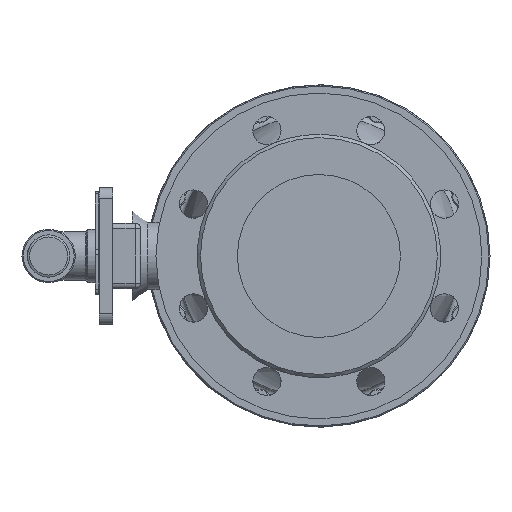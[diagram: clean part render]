
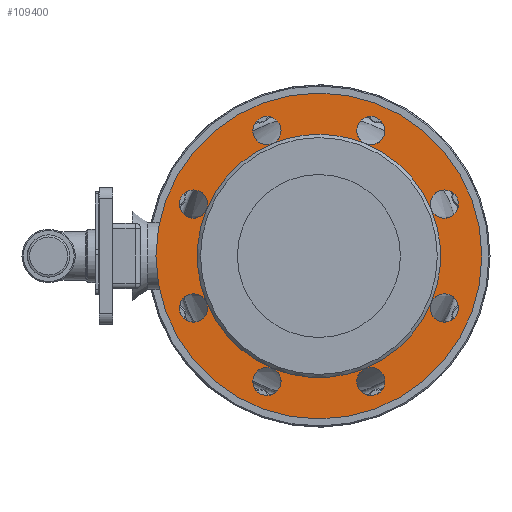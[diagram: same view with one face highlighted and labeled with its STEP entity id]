
A CAD part, left-side view. The second image highlights one B-rep face of the part: STEP entity #109400.
In plain terms, the highlighted planar face has unit normal (-1, 0, 0).
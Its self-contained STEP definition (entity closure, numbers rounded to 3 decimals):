
#109232=CARTESIAN_POINT('',(-159.0,42.861,-103.475));
#109233=VERTEX_POINT('',#109232);
#109234=CARTESIAN_POINT('',(-159.0,-42.861,-103.475));
#109235=VERTEX_POINT('',#109234);
#109236=CARTESIAN_POINT('',(-159.0,0.0,0.0));
#109237=DIRECTION('',(-1.0,0.0,0.0));
#109238=DIRECTION('',(0.0,0.0,1.0));
#109239=AXIS2_PLACEMENT_3D('',#109236,#109237,#109238);
#109240=CIRCLE('',#109239,112.);
#109241=EDGE_CURVE('',#109233,#109235,#109240,.T.);
#109243=CARTESIAN_POINT('',(-159.0,-103.475,-42.861));
#109244=VERTEX_POINT('',#109243);
#109245=CARTESIAN_POINT('',(-159.0,0.0,0.0));
#109246=DIRECTION('',(-1.0,0.0,0.0));
#109247=DIRECTION('',(0.0,0.0,1.0));
#109248=AXIS2_PLACEMENT_3D('',#109245,#109246,#109247);
#109249=CIRCLE('',#109248,112.);
#109250=EDGE_CURVE('',#109235,#109244,#109249,.T.);
#109252=CARTESIAN_POINT('',(-159.0,-103.475,42.861));
#109253=VERTEX_POINT('',#109252);
#109254=CARTESIAN_POINT('',(-159.0,0.0,0.0));
#109255=DIRECTION('',(-1.0,0.0,0.0));
#109256=DIRECTION('',(0.0,0.0,1.0));
#109257=AXIS2_PLACEMENT_3D('',#109254,#109255,#109256);
#109258=CIRCLE('',#109257,112.);
#109259=EDGE_CURVE('',#109244,#109253,#109258,.T.);
#109261=CARTESIAN_POINT('',(-159.0,-42.861,103.475));
#109262=VERTEX_POINT('',#109261);
#109263=CARTESIAN_POINT('',(-159.0,0.0,0.0));
#109264=DIRECTION('',(-1.0,0.0,0.0));
#109265=DIRECTION('',(0.0,0.0,1.0));
#109266=AXIS2_PLACEMENT_3D('',#109263,#109264,#109265);
#109267=CIRCLE('',#109266,112.);
#109268=EDGE_CURVE('',#109253,#109262,#109267,.T.);
#109270=CARTESIAN_POINT('',(-159.0,42.861,103.475));
#109271=VERTEX_POINT('',#109270);
#109272=CARTESIAN_POINT('',(-159.0,0.0,0.0));
#109273=DIRECTION('',(-1.0,0.0,0.0));
#109274=DIRECTION('',(0.0,0.0,1.0));
#109275=AXIS2_PLACEMENT_3D('',#109272,#109273,#109274);
#109276=CIRCLE('',#109275,112.);
#109277=EDGE_CURVE('',#109262,#109271,#109276,.T.);
#109279=CARTESIAN_POINT('',(-159.0,103.475,42.861));
#109280=VERTEX_POINT('',#109279);
#109281=CARTESIAN_POINT('',(-159.0,0.0,0.0));
#109282=DIRECTION('',(-1.0,0.0,0.0));
#109283=DIRECTION('',(0.0,0.0,1.0));
#109284=AXIS2_PLACEMENT_3D('',#109281,#109282,#109283);
#109285=CIRCLE('',#109284,112.);
#109286=EDGE_CURVE('',#109271,#109280,#109285,.T.);
#109288=CARTESIAN_POINT('',(-159.0,103.475,-42.861));
#109289=VERTEX_POINT('',#109288);
#109290=CARTESIAN_POINT('',(-159.0,0.0,0.0));
#109291=DIRECTION('',(-1.0,0.0,0.0));
#109292=DIRECTION('',(0.0,0.0,1.0));
#109293=AXIS2_PLACEMENT_3D('',#109290,#109291,#109292);
#109294=CIRCLE('',#109293,112.);
#109295=EDGE_CURVE('',#109280,#109289,#109294,.T.);
#109297=CARTESIAN_POINT('',(-159.0,0.0,0.0));
#109298=DIRECTION('',(-1.0,0.0,0.0));
#109299=DIRECTION('',(0.0,0.0,1.0));
#109300=AXIS2_PLACEMENT_3D('',#109297,#109298,#109299);
#109301=CIRCLE('',#109300,112.);
#109302=EDGE_CURVE('',#109289,#109233,#109301,.T.);
#109318=CARTESIAN_POINT('',(-159.0,-125.75,0.0));
#109319=DIRECTION('',(-1.0,0.0,0.0));
#109320=DIRECTION('',(0.0,0.0,1.0));
#109321=AXIS2_PLACEMENT_3D('',#109318,#109319,#109320);
#109322=PLANE('',#109321);
#109323=CARTESIAN_POINT('',(-159.0,0.,150.0));
#109324=VERTEX_POINT('',#109323);
#109325=CARTESIAN_POINT('',(-159.0,0.0,0.0));
#109326=DIRECTION('',(1.0,0.0,0.0));
#109327=DIRECTION('',(0.0,0.0,-1.0));
#109328=AXIS2_PLACEMENT_3D('',#109325,#109326,#109327);
#109329=CIRCLE('',#109328,150.0);
#109330=EDGE_CURVE('',#109324,#109324,#109329,.T.);
#109331=ORIENTED_EDGE('',*,*,#109330,.F.);
#109332=EDGE_LOOP('',(#109331));
#109333=FACE_OUTER_BOUND('',#109332,.T.);
#109334=CARTESIAN_POINT('',(-159.0,115.485,-47.835));
#109335=DIRECTION('',(1.0,0.0,0.0));
#109336=DIRECTION('',(0.0,0.0,1.0));
#109337=AXIS2_PLACEMENT_3D('',#109334,#109335,#109336);
#109338=CIRCLE('',#109337,13.0);
#109339=EDGE_CURVE('',#109289,#109289,#109338,.T.);
#109340=ORIENTED_EDGE('',*,*,#109339,.T.);
#109341=ORIENTED_EDGE('',*,*,#109295,.F.);
#109342=CARTESIAN_POINT('',(-159.0,115.485,47.835));
#109343=DIRECTION('',(1.0,0.0,0.0));
#109344=DIRECTION('',(0.0,0.0,1.0));
#109345=AXIS2_PLACEMENT_3D('',#109342,#109343,#109344);
#109346=CIRCLE('',#109345,13.0);
#109347=EDGE_CURVE('',#109280,#109280,#109346,.T.);
#109348=ORIENTED_EDGE('',*,*,#109347,.T.);
#109349=ORIENTED_EDGE('',*,*,#109286,.F.);
#109350=CARTESIAN_POINT('',(-159.0,47.835,115.485));
#109351=DIRECTION('',(1.0,0.0,0.0));
#109352=DIRECTION('',(0.0,0.0,1.0));
#109353=AXIS2_PLACEMENT_3D('',#109350,#109351,#109352);
#109354=CIRCLE('',#109353,13.0);
#109355=EDGE_CURVE('',#109271,#109271,#109354,.T.);
#109356=ORIENTED_EDGE('',*,*,#109355,.T.);
#109357=ORIENTED_EDGE('',*,*,#109277,.F.);
#109358=CARTESIAN_POINT('',(-159.0,-47.835,115.485));
#109359=DIRECTION('',(1.0,0.0,0.0));
#109360=DIRECTION('',(0.0,0.0,1.0));
#109361=AXIS2_PLACEMENT_3D('',#109358,#109359,#109360);
#109362=CIRCLE('',#109361,13.0);
#109363=EDGE_CURVE('',#109262,#109262,#109362,.T.);
#109364=ORIENTED_EDGE('',*,*,#109363,.T.);
#109365=ORIENTED_EDGE('',*,*,#109268,.F.);
#109366=CARTESIAN_POINT('',(-159.0,-115.485,47.835));
#109367=DIRECTION('',(1.0,0.0,0.0));
#109368=DIRECTION('',(0.0,0.0,1.0));
#109369=AXIS2_PLACEMENT_3D('',#109366,#109367,#109368);
#109370=CIRCLE('',#109369,13.0);
#109371=EDGE_CURVE('',#109253,#109253,#109370,.T.);
#109372=ORIENTED_EDGE('',*,*,#109371,.T.);
#109373=ORIENTED_EDGE('',*,*,#109259,.F.);
#109374=CARTESIAN_POINT('',(-159.0,-115.485,-47.835));
#109375=DIRECTION('',(1.0,0.0,0.0));
#109376=DIRECTION('',(0.0,0.0,1.0));
#109377=AXIS2_PLACEMENT_3D('',#109374,#109375,#109376);
#109378=CIRCLE('',#109377,13.0);
#109379=EDGE_CURVE('',#109244,#109244,#109378,.T.);
#109380=ORIENTED_EDGE('',*,*,#109379,.T.);
#109381=ORIENTED_EDGE('',*,*,#109250,.F.);
#109382=CARTESIAN_POINT('',(-159.0,-47.835,-115.485));
#109383=DIRECTION('',(1.0,0.0,0.0));
#109384=DIRECTION('',(0.0,0.0,1.0));
#109385=AXIS2_PLACEMENT_3D('',#109382,#109383,#109384);
#109386=CIRCLE('',#109385,13.0);
#109387=EDGE_CURVE('',#109235,#109235,#109386,.T.);
#109388=ORIENTED_EDGE('',*,*,#109387,.T.);
#109389=ORIENTED_EDGE('',*,*,#109241,.F.);
#109390=CARTESIAN_POINT('',(-159.0,47.835,-115.485));
#109391=DIRECTION('',(1.0,0.0,0.0));
#109392=DIRECTION('',(0.0,0.0,1.0));
#109393=AXIS2_PLACEMENT_3D('',#109390,#109391,#109392);
#109394=CIRCLE('',#109393,13.0);
#109395=EDGE_CURVE('',#109233,#109233,#109394,.T.);
#109396=ORIENTED_EDGE('',*,*,#109395,.T.);
#109397=ORIENTED_EDGE('',*,*,#109302,.F.);
#109398=EDGE_LOOP('',(#109340,#109341,#109348,#109349,#109356,#109357,#109364,#109365,#109372,#109373,#109380,#109381,#109388,#109389,#109396,#109397));
#109399=FACE_BOUND('',#109398,.T.);
#109400=ADVANCED_FACE('',(#109333,#109399),#109322,.T.);
